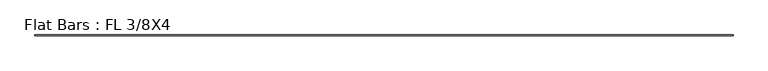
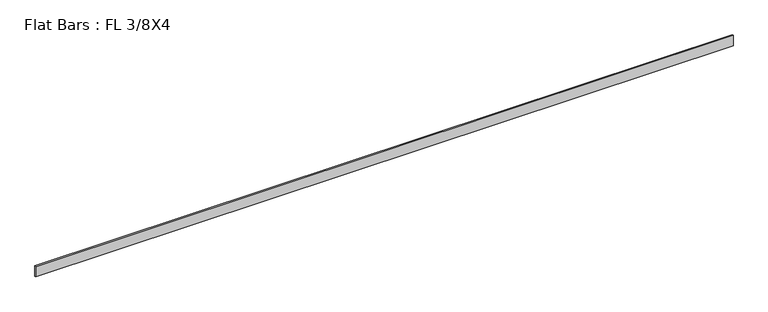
"""IFC4 building model written with IfcOpenShell, lengths in millimetres: member geometry, Flat Bars : FL 3/8X4."""

from ifc_helpers import new_model, si_unit, frame, origin, place, context, project, spatial, polyline, outline, extrude, source, transform, mapped, element, save


def flat_bars_fl_3_8x4_168c0369(model_context):
    return source(origin(), model_context, "Body", "SweptSolid", [
        extrude(outline(polyline([(-3212.3168384, 4.7625), (3245.2082713, 4.7625), (3245.2082713, -4.7625), (-3212.3168384, -4.7625), (-3212.3168384, 4.7625)])), frame((0.0, 0.0, -50.8), z_axis=(0.0, 0.0, 1.0), x_axis=(1.0, 0.0, 0.0)), (0.0, 0.0, 1.0), 101.6),
    ])


if __name__ == "__main__":
    model = new_model("IFC4")
    model_context = context("Model", 3, world=origin())
    ifc_project = project(units=[si_unit("LENGTHUNIT", "METRE", prefix="MILLI")], contexts=[model_context])
    site = spatial("IfcSite", under=ifc_project)
    building = spatial("IfcBuilding", under=site)
    placement = place(None, origin())
    flat_bars_fl_3_8x4_shape = flat_bars_fl_3_8x4_168c0369(model_context)
    element("IfcMember", 1, ObjectType="Flat Bars : FL 3/8X4", at=placement, inside=building, context=model_context, shape_type="MappedRepresentation", body=[
        mapped(flat_bars_fl_3_8x4_shape, transform((0.0, 0.0, 0.0), x_axis=(1.0, 0.0, 0.0), y_axis=(0.0, 1.0, 0.0), z_axis=(0.0, 0.0, 1.0))),
    ])
    save(model, "model.ifc")
